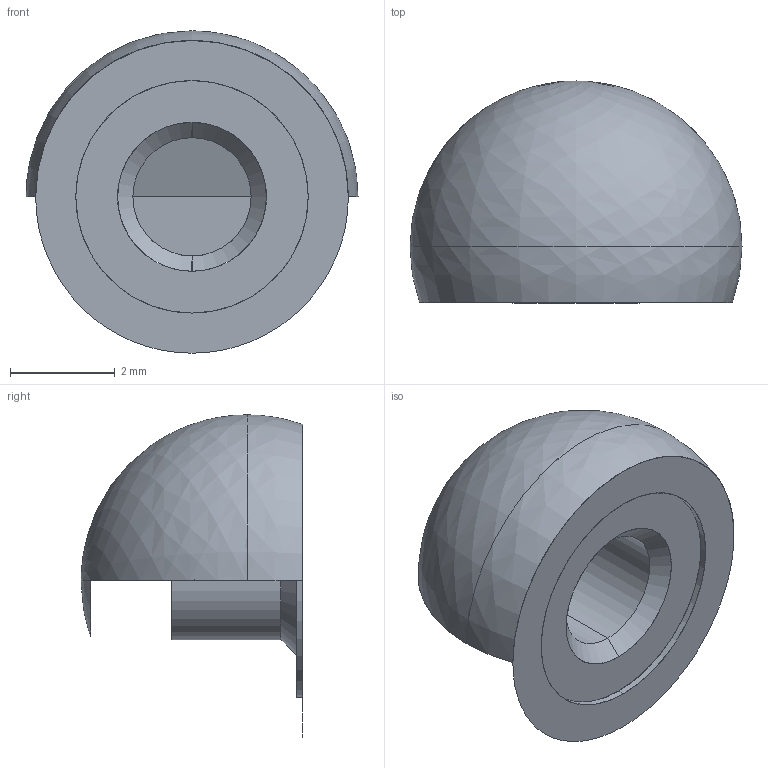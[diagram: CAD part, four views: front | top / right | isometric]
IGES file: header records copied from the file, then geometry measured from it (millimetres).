
Start section: SolidWorks IGES file using analytic representation for surfaces
Global section: file name: D:\Solid_parts\MECHeDESIGN\Bal-Tec\Catalog 105-A\Distribution\IGES\250-TBR-T.IGS; native system: SolidWorks 2005 by SolidWorks Corporation; preprocessor: SolidWorks 2005 by SolidWorks Corporation; author: rvillegas; date: 061205.184134; units: inch
Bounding box: 6.35 x 4.24 x 6.17 mm (x, y, z)
Surface area: 121.5 mm2 (no closed solid volume)
Topology: 0 solids, 0 shells, 11 faces, 192 edges, 191 vertices
Faces by surface type: revolution 8, bspline 3
